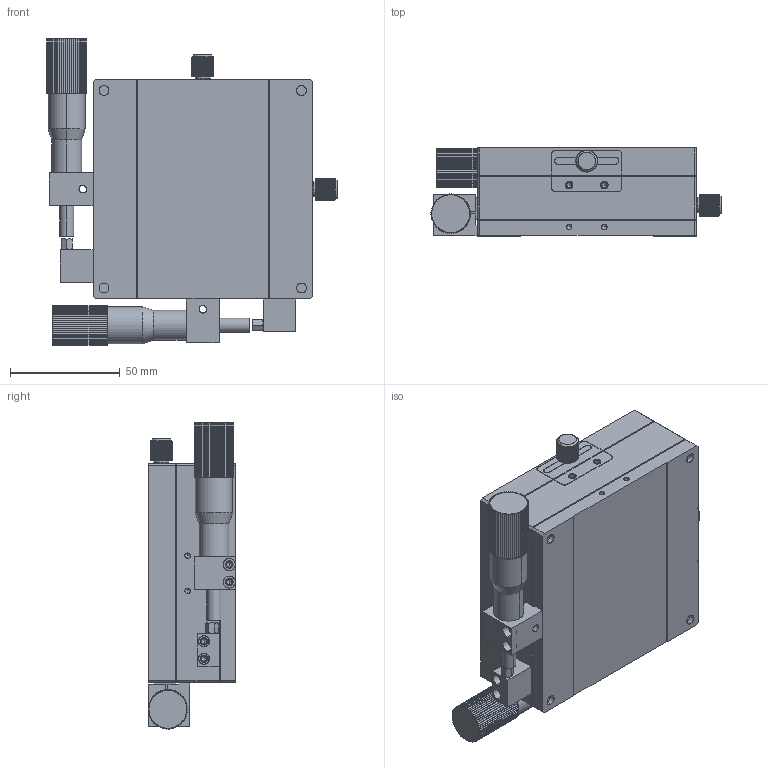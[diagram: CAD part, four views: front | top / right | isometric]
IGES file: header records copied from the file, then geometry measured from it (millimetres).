
Start section: SolidWorks IGES file using analytic representation for surfaces
Bounding box: 132.19 x 40 x 139.49 mm (x, y, z)
Surface area: 102016.3 mm2 (no closed solid volume)
Topology: 0 solids, 0 shells, 1257 faces, 14744 edges, 14688 vertices
Faces by surface type: revolution 866, bspline 391
